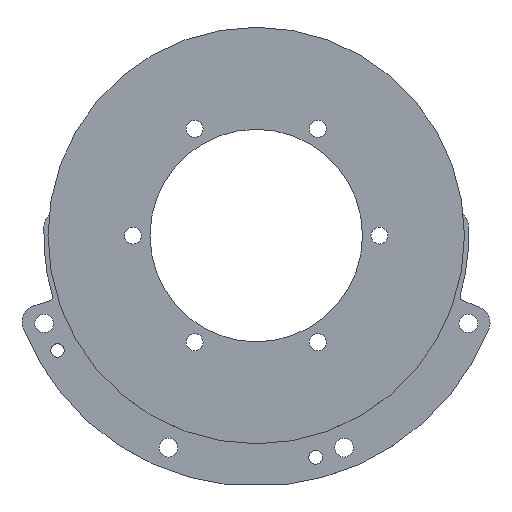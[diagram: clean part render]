
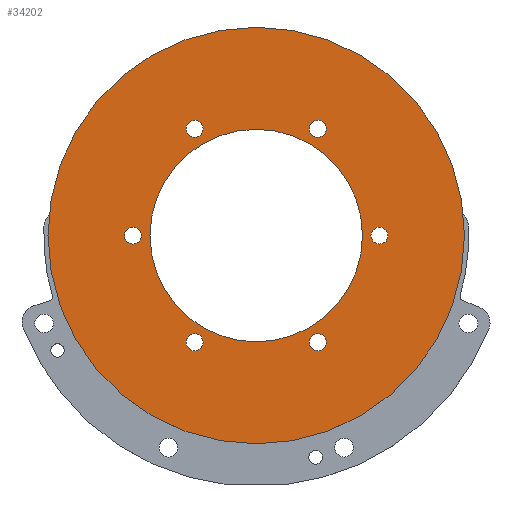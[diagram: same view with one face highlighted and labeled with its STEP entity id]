
A CAD part, top view. The second image highlights one B-rep face of the part: STEP entity #34202.
In plain terms, the highlighted planar face has unit normal (0, 0, 1).
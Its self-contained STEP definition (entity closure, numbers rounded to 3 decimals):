
#30841=PLANE('',#86184);
#34202=ADVANCED_FACE('',(#39754,#39755,#39756,#39757,#39758,#39759,#39760,
#39761),#30841,.F.);
#39754=FACE_BOUND('',#39889,.T.);
#39755=FACE_BOUND('',#39890,.T.);
#39756=FACE_BOUND('',#39891,.T.);
#39757=FACE_BOUND('',#39892,.T.);
#39758=FACE_BOUND('',#39893,.T.);
#39759=FACE_BOUND('',#39894,.T.);
#39760=FACE_BOUND('',#39895,.T.);
#39761=FACE_BOUND('',#39896,.T.);
#39889=EDGE_LOOP('',(#44565));
#39890=EDGE_LOOP('',(#44566));
#39891=EDGE_LOOP('',(#44567));
#39892=EDGE_LOOP('',(#44568));
#39893=EDGE_LOOP('',(#44569));
#39894=EDGE_LOOP('',(#44570));
#39895=EDGE_LOOP('',(#44571));
#39896=EDGE_LOOP('',(#44572));
#44565=ORIENTED_EDGE('',*,*,#73342,.F.);
#44566=ORIENTED_EDGE('',*,*,#73345,.T.);
#44567=ORIENTED_EDGE('',*,*,#73352,.F.);
#44568=ORIENTED_EDGE('',*,*,#73353,.F.);
#44569=ORIENTED_EDGE('',*,*,#73354,.F.);
#44570=ORIENTED_EDGE('',*,*,#73355,.F.);
#44571=ORIENTED_EDGE('',*,*,#73356,.F.);
#44572=ORIENTED_EDGE('',*,*,#73357,.F.);
#66363=VERTEX_POINT('',#114681);
#66366=VERTEX_POINT('',#114688);
#66373=VERTEX_POINT('',#114704);
#66374=VERTEX_POINT('',#114706);
#66375=VERTEX_POINT('',#114708);
#66376=VERTEX_POINT('',#114710);
#66377=VERTEX_POINT('',#114712);
#66378=VERTEX_POINT('',#114714);
#73342=EDGE_CURVE('',#66363,#66363,#84247,.T.);
#73345=EDGE_CURVE('',#66366,#66366,#84250,.T.);
#73352=EDGE_CURVE('',#66373,#66373,#84257,.T.);
#73353=EDGE_CURVE('',#66374,#66374,#84258,.T.);
#73354=EDGE_CURVE('',#66375,#66375,#84259,.T.);
#73355=EDGE_CURVE('',#66376,#66376,#84260,.T.);
#73356=EDGE_CURVE('',#66377,#66377,#84261,.T.);
#73357=EDGE_CURVE('',#66378,#66378,#84262,.T.);
#84247=CIRCLE('',#86165,24.5);
#84250=CIRCLE('',#86169,12.5);
#84257=CIRCLE('',#86178,1.);
#84258=CIRCLE('',#86179,1.);
#84259=CIRCLE('',#86180,1.);
#84260=CIRCLE('',#86181,1.);
#84261=CIRCLE('',#86182,1.);
#84262=CIRCLE('',#86183,1.);
#86165=AXIS2_PLACEMENT_3D('',#114680,#92683,#92684);
#86169=AXIS2_PLACEMENT_3D('',#114687,#92691,#92692);
#86178=AXIS2_PLACEMENT_3D('',#114703,#92709,#92710);
#86179=AXIS2_PLACEMENT_3D('',#114705,#92711,#92712);
#86180=AXIS2_PLACEMENT_3D('',#114707,#92713,#92714);
#86181=AXIS2_PLACEMENT_3D('',#114709,#92715,#92716);
#86182=AXIS2_PLACEMENT_3D('',#114711,#92717,#92718);
#86183=AXIS2_PLACEMENT_3D('',#114713,#92719,#92720);
#86184=AXIS2_PLACEMENT_3D('',#114715,#92721,#92722);
#92683=DIRECTION('',(0.,0.,-1.));
#92684=DIRECTION('',(1.,0.,0.));
#92691=DIRECTION('',(0.,0.,-1.));
#92692=DIRECTION('',(1.,0.,0.));
#92709=DIRECTION('',(0.,0.,1.));
#92710=DIRECTION('',(1.,0.,0.));
#92711=DIRECTION('',(0.,0.,1.));
#92712=DIRECTION('',(1.,0.,0.));
#92713=DIRECTION('',(0.,0.,1.));
#92714=DIRECTION('',(1.,0.,0.));
#92715=DIRECTION('',(0.,0.,1.));
#92716=DIRECTION('',(1.,0.,0.));
#92717=DIRECTION('',(0.,0.,1.));
#92718=DIRECTION('',(1.,0.,0.));
#92719=DIRECTION('',(0.,0.,1.));
#92720=DIRECTION('',(1.,0.,0.));
#92721=DIRECTION('',(0.,0.,-1.));
#92722=DIRECTION('',(-1.,0.,0.));
#114680=CARTESIAN_POINT('',(0.,0.,12.16));
#114681=CARTESIAN_POINT('',(24.5,0.,12.16));
#114687=CARTESIAN_POINT('',(0.,0.,12.16));
#114688=CARTESIAN_POINT('',(12.5,0.,12.16));
#114703=CARTESIAN_POINT('',(-14.5,0.,12.16));
#114704=CARTESIAN_POINT('',(-13.5,0.,12.16));
#114705=CARTESIAN_POINT('',(-7.25,12.557,12.16));
#114706=CARTESIAN_POINT('',(-6.25,12.557,12.16));
#114707=CARTESIAN_POINT('',(7.25,12.557,12.16));
#114708=CARTESIAN_POINT('',(8.25,12.557,12.16));
#114709=CARTESIAN_POINT('',(14.5,0.,12.16));
#114710=CARTESIAN_POINT('',(15.5,0.,12.16));
#114711=CARTESIAN_POINT('',(7.25,-12.557,12.16));
#114712=CARTESIAN_POINT('',(8.25,-12.557,12.16));
#114713=CARTESIAN_POINT('',(-7.25,-12.557,12.16));
#114714=CARTESIAN_POINT('',(-6.25,-12.557,12.16));
#114715=CARTESIAN_POINT('',(0.,0.,12.16));
